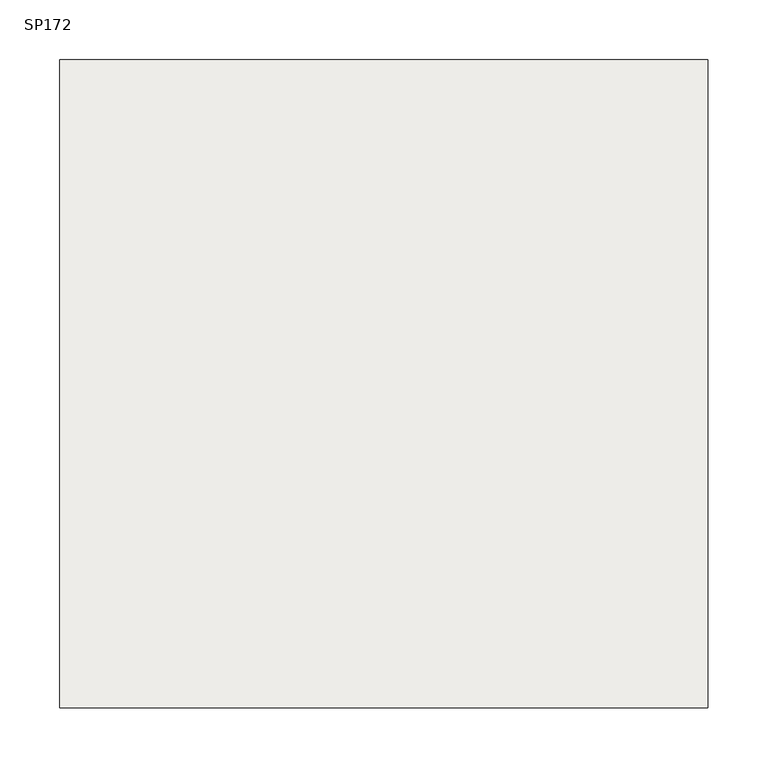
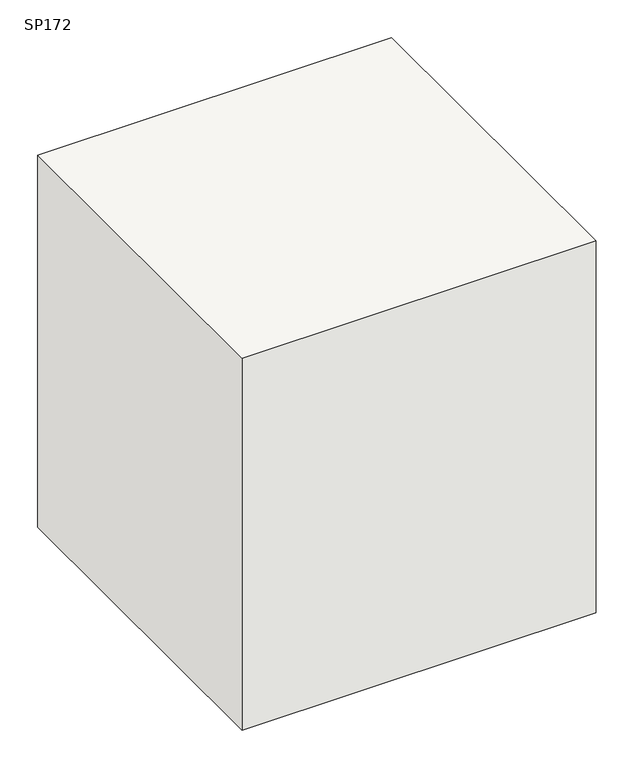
"""IFC4 building model written with IfcOpenShell, lengths in millimetres: slab geometry, 柱形_SP : SP172."""

from ifc_helpers import new_model, si_unit, frame, origin, place, context, project, spatial, polyline, outline, extrude, source, transform, mapped, element, save


def sp172_eb2fc9ff(model_context):
    return source(origin(), model_context, "Body", "SweptSolid", [
        extrude(outline(polyline([(270.0, 270.0), (270.0, -270.0), (-270.0, -270.0), (-270.0, 270.0), (270.0, 270.0)])), frame((0.0, 0.0, -600.0), z_axis=(0.0, 0.0, 1.0), x_axis=(1.0, 0.0, 0.0)), (0.0, 0.0, 1.0), 600.0),
    ])


if __name__ == "__main__":
    model = new_model("IFC4")
    model_context = context("Model", 3, world=origin())
    ifc_project = project(units=[si_unit("LENGTHUNIT", "METRE", prefix="MILLI")], contexts=[model_context])
    site = spatial("IfcSite", under=ifc_project)
    building = spatial("IfcBuilding", under=site)
    placement = place(None, origin())
    sp172_shape = sp172_eb2fc9ff(model_context)
    element("IfcSlab", 1, ObjectType="柱形_SP : SP172", at=placement, inside=building, context=model_context, shape_type="MappedRepresentation", body=[
        mapped(sp172_shape, transform((0.0, 0.0, 0.0), x_axis=(1.0, 0.0, 0.0), y_axis=(0.0, 1.0, 0.0), z_axis=(0.0, 0.0, 1.0))),
    ])
    save(model, "model.ifc")
